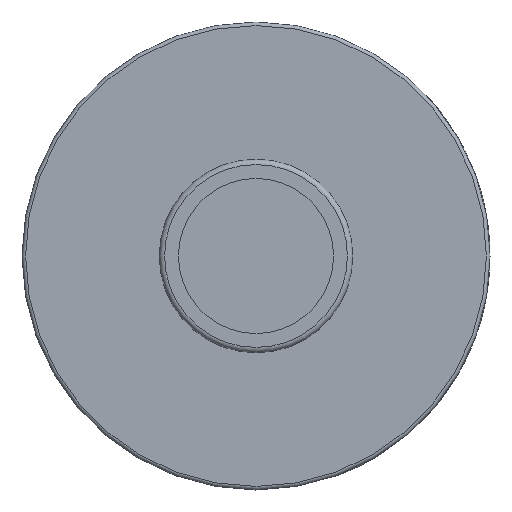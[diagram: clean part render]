
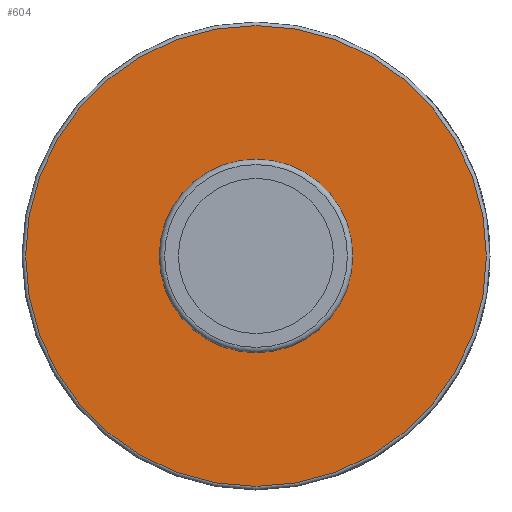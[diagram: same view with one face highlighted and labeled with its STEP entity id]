
A CAD part, left-side view. The second image highlights one B-rep face of the part: STEP entity #604.
In plain terms, the highlighted planar face has unit normal (-1, 0, 0).
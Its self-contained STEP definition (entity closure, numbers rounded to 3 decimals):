
#604 = ADVANCED_FACE( '', ( #1270, #1271 ), #1272, .T. );
#1270 = FACE_OUTER_BOUND( '', #2940, .T. );
#1271 = FACE_BOUND( '', #2941, .T. );
#1272 = PLANE( '', #2942 );
#2940 = EDGE_LOOP( '', ( #4593 ) );
#2941 = EDGE_LOOP( '', ( #4594 ) );
#2942 = AXIS2_PLACEMENT_3D( '', #4595, #4596, #4597 );
#4593 = ORIENTED_EDGE( '', *, *, #5451, .T. );
#4594 = ORIENTED_EDGE( '', *, *, #5005, .F. );
#4595 = CARTESIAN_POINT( '', ( 9.703, 0., 9.195 ) );
#4596 = DIRECTION( '', ( -1., 0., 0. ) );
#4597 = DIRECTION( '', ( 0., 0., 1. ) );
#5005 = EDGE_CURVE( '', #5891, #5891, #5892, .T. );
#5451 = EDGE_CURVE( '', #6531, #6531, #6532, .T. );
#5891 = VERTEX_POINT( '', #7498 );
#5892 = CIRCLE( '', #7499, 9.195 );
#6531 = VERTEX_POINT( '', #9024 );
#6532 = CIRCLE( '', #9025, 21.882 );
#7498 = CARTESIAN_POINT( '', ( 9.703, 0., 9.195 ) );
#7499 = AXIS2_PLACEMENT_3D( '', #9133, #9134, #9135 );
#9024 = CARTESIAN_POINT( '', ( 9.703, 0., 21.882 ) );
#9025 = AXIS2_PLACEMENT_3D( '', #9190, #9191, #9192 );
#9133 = CARTESIAN_POINT( '', ( 9.703, 0., 0. ) );
#9134 = DIRECTION( '', ( -1., 0., 0. ) );
#9135 = DIRECTION( '', ( 0., 0., 1. ) );
#9190 = CARTESIAN_POINT( '', ( 9.703, 0., 0. ) );
#9191 = DIRECTION( '', ( -1., 0., 0. ) );
#9192 = DIRECTION( '', ( 0., 0., 1. ) );
